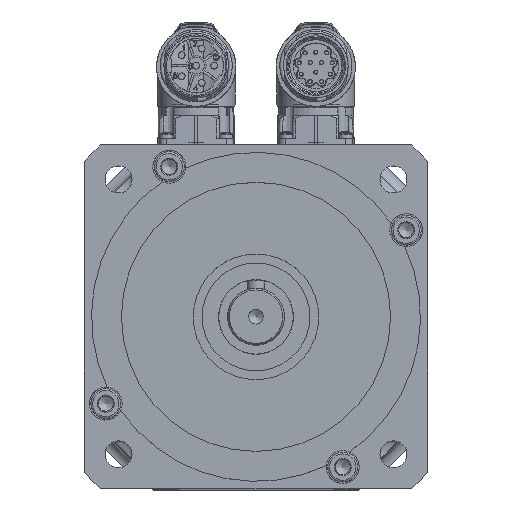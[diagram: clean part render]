
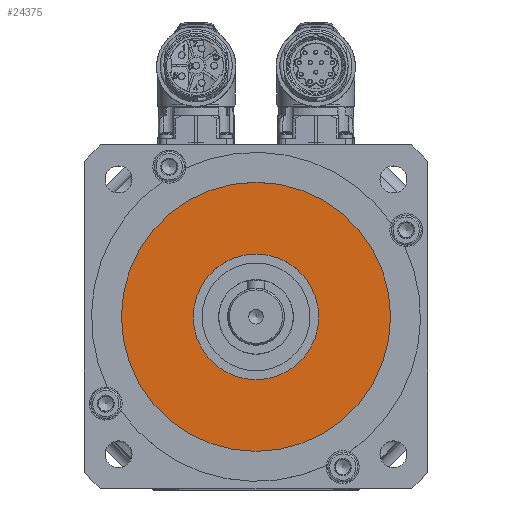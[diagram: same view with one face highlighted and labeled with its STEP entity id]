
A CAD part, top view. The second image highlights one B-rep face of the part: STEP entity #24375.
In plain terms, the highlighted planar face has unit normal (0, 0, 1).
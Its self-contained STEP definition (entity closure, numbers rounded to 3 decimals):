
#2017=PLANE('',#26166);
#5727=FACE_BOUND('',#8445,.T.);
#5728=FACE_BOUND('',#8446,.T.);
#8445=EDGE_LOOP('',(#18226));
#8446=EDGE_LOOP('',(#18227));
#10214=CIRCLE('',#26164,21.);
#10215=CIRCLE('',#26167,45.);
#11566=VERTEX_POINT('',#36387);
#11567=VERTEX_POINT('',#36391);
#14175=EDGE_CURVE('',#11566,#11566,#10214,.T.);
#14176=EDGE_CURVE('',#11567,#11567,#10215,.T.);
#18226=ORIENTED_EDGE('',*,*,#14175,.T.);
#18227=ORIENTED_EDGE('',*,*,#14176,.F.);
#24375=ADVANCED_FACE('',(#5727,#5728),#2017,.T.);
#26164=AXIS2_PLACEMENT_3D('',#36388,#29611,#29612);
#26166=AXIS2_PLACEMENT_3D('',#36390,#29615,#29616);
#26167=AXIS2_PLACEMENT_3D('',#36392,#29617,#29618);
#29611=DIRECTION('center_axis',(0.,0.,-1.));
#29612=DIRECTION('ref_axis',(-1.,0.,0.));
#29615=DIRECTION('center_axis',(0.,0.,1.));
#29616=DIRECTION('ref_axis',(1.,0.,0.));
#29617=DIRECTION('center_axis',(0.,0.,-1.));
#29618=DIRECTION('ref_axis',(-1.,0.,0.));
#36387=CARTESIAN_POINT('',(21.,0.,11.5));
#36388=CARTESIAN_POINT('Origin',(0.,0.,11.5));
#36390=CARTESIAN_POINT('Origin',(0.,0.,
11.5));
#36391=CARTESIAN_POINT('',(45.,0.,11.5));
#36392=CARTESIAN_POINT('Origin',(0.,0.,11.5));
